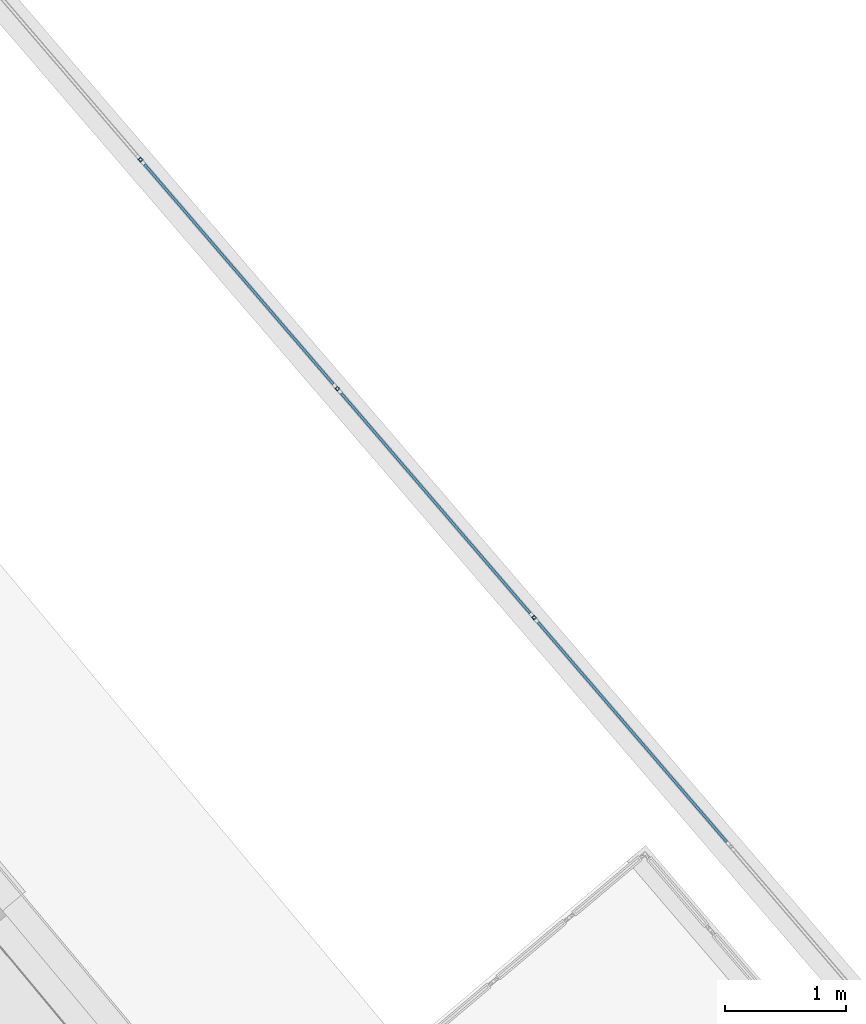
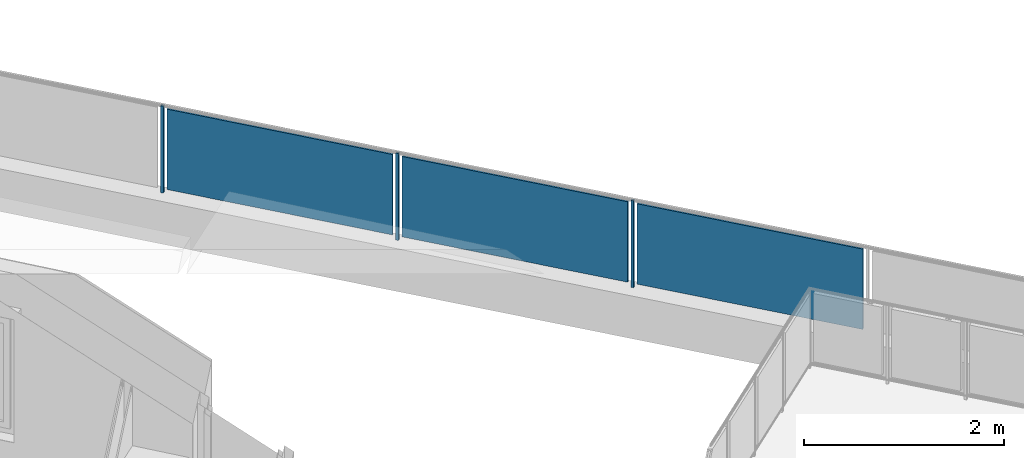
# One storey, part 48 of 67: 6 building element parts, 1 element without a shape of its own.
"""IFC4 building model written with IfcOpenShell, lengths in metres."""

from ifc_helpers import new_model, entity, si_unit, converted_unit, derived_unit, direction, frame, origin_with_axes, place, context, subcontext, project, spatial, polygons, material, type_object, element, aggregate, save


model = new_model("IFC4")

# Units and contexts
model_context = context("Model", 3, precision=1e-05, world=origin_with_axes(), true_north=direction((0.0, 1.0)))
body_context = subcontext(model_context, "Body", "Model", "MODEL_VIEW")
ifc_project = project(units=[si_unit("LENGTHUNIT", "METRE"), si_unit("AREAUNIT", "SQUARE_METRE"), si_unit("VOLUMEUNIT", "CUBIC_METRE"), converted_unit("PLANEANGLEUNIT", "DEGREE", entity("IfcPlaneAngleMeasure", 0.0174532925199), si_unit("PLANEANGLEUNIT", "RADIAN"), dimensions=[0, 0, 0, 0, 0, 0, 0]), converted_unit("TIMEUNIT", "Year", entity("IfcTimeMeasure", 31556926.0), si_unit("TIMEUNIT", "SECOND"), dimensions=[0, 0, 1, 0, 0, 0, 0]), si_unit("MASSUNIT", "GRAM", prefix="KILO"), si_unit("THERMODYNAMICTEMPERATUREUNIT", "DEGREE_CELSIUS"), si_unit("LUMINOUSINTENSITYUNIT", "LUMEN"), si_unit("ENERGYUNIT", "JOULE", prefix="MEGA"), derived_unit("THERMALCONDUCTANCEUNIT", [(si_unit("POWERUNIT", "WATT"), 1), (si_unit("LENGTHUNIT", "METRE"), -1), (si_unit("THERMODYNAMICTEMPERATUREUNIT", "KELVIN"), -1)]), derived_unit("SPECIFICHEATCAPACITYUNIT", [(si_unit("ENERGYUNIT", "JOULE"), 1), (si_unit("MASSUNIT", "GRAM", prefix="KILO"), -1), (si_unit("THERMODYNAMICTEMPERATUREUNIT", "KELVIN"), -1)]), derived_unit("MASSDENSITYUNIT", [(si_unit("MASSUNIT", "GRAM", prefix="KILO"), 1), (si_unit("VOLUMEUNIT", "CUBIC_METRE"), -1)])], contexts=[model_context])

# Site, building, storey
site_placement = place(None, frame((-0.00153261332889, -0.00661245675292, 0.0), z_axis=(0.0, 0.0, 1.0), x_axis=(1.0, 0.0, 0.0)))
site = spatial("IfcSite", under=ifc_project, at=site_placement, Name="Site", CompositionType="ELEMENT")
building_placement = place(site_placement, origin_with_axes())
building = spatial("IfcBuilding", under=site, at=building_placement, Name="Building", CompositionType="ELEMENT")
storey_placement = place(building_placement, frame((0.0, 0.0, -0.22), z_axis=(0.0, 0.0, 1.0), x_axis=(1.0, 0.0, 0.0)))
storey = spatial("IfcBuildingStorey", under=building, at=storey_placement, Name="EG", CompositionType="ELEMENT", Elevation=-0.22)

# Railing, building element parts
railing_type = type_object("IfcRailingType", Name="Geländerart", PredefinedType="NOTDEFINED")
railing_placement = place(storey_placement, frame((-12.1608341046, 23.557810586, 0.523948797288), z_axis=(0.0, 0.0, 1.0), x_axis=(1.0, 0.0, 0.0)))
railing = element("IfcRailing", 1, at=railing_placement, inside=storey, type_object=railing_type, Name="Geländer - 001", PredefinedType="NOTDEFINED")
ifc_material_1 = material(Name="Zaun")
building_element_part_1_placement = place(railing_placement, origin_with_axes())
building_element_part_1 = element("IfcBuildingElementPart", 2, at=building_element_part_1_placement, material=ifc_material_1, Name="Zaun", PredefinedType="NOTDEFINED", context=body_context, shape_type="Tessellation", body=[
    polygons([(27.207719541, 2.05287103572, 0.05), (28.7635417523, 0.242168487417, 0.05), (28.7635417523, 0.242168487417, 1.03), (27.207719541, 2.05287103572, 1.03), (28.7787111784, 0.255202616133, 0.05), (27.2228889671, 2.06590516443, 0.05), (28.7787111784, 0.255202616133, 1.03), (27.2228889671, 2.06590516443, 1.03)], [[[1, 2, 3, 4]], [[5, 2, 1, 6]], [[7, 3, 2, 5]], [[4, 3, 7, 8]], [[1, 4, 8, 6]], [[7, 5, 6, 8]]], closed=True),
])
ifc_material_2 = material(Name="Aluminium")
building_element_part_2_placement = place(railing_placement, origin_with_axes())
building_element_part_2 = element("IfcBuildingElementPart", 3, at=building_element_part_2_placement, material=ifc_material_2, Name="Aluminium", PredefinedType="NOTDEFINED", context=body_context, shape_type="Tessellation", body=[
    polygons([(27.1843204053, 2.11846433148, 0.0), (27.1615662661, 2.09891313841, 0.0), (27.1615662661, 2.09891313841, 1.06), (27.1843204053, 2.11846433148, 1.06), (27.2038715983, 2.09571019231, 0.0), (27.1811174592, 2.07615899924, 0.0), (27.1837865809, 2.11141344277, 0.0), (27.1686171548, 2.09837931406, 0.0), (27.1816512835, 2.08320988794, 0.0), (27.1968207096, 2.09624401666, 0.0), (27.1811174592, 2.07615899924, 1.06), (27.2038715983, 2.09571019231, 1.06), (27.1837865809, 2.11141344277, 1.06), (27.1968207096, 2.09624401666, 1.06), (27.1816512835, 2.08320988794, 1.06), (27.1686171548, 2.09837931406, 1.06)], [[[1, 2, 3, 4]], [[1, 5, 6, 2], [7, 8, 9, 10]], [[2, 6, 11, 3]], [[4, 3, 11, 12], [13, 14, 15, 16]], [[5, 1, 4, 12]], [[6, 5, 12, 11]], [[8, 7, 13, 16]], [[9, 8, 16, 15]], [[10, 9, 15, 14]], [[7, 10, 14, 13]]], closed=True),
])
building_element_part_3_placement = place(railing_placement, origin_with_axes())
building_element_part_3 = element("IfcBuildingElementPart", 4, at=building_element_part_3_placement, material=ifc_material_1, Name="Zaun", PredefinedType="NOTDEFINED", context=body_context, shape_type="Tessellation", body=[
    polygons([(25.586726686, 3.93942071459, 0.05), (27.1425488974, 2.12871816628, 0.05), (27.1425488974, 2.12871816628, 1.03), (25.586726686, 3.93942071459, 1.03), (27.1577183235, 2.141752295, 0.05), (25.6018961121, 3.9524548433, 0.05), (27.1577183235, 2.141752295, 1.03), (25.6018961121, 3.9524548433, 1.03)], [[[1, 2, 3, 4]], [[5, 2, 1, 6]], [[7, 3, 2, 5]], [[4, 3, 7, 8]], [[1, 4, 8, 6]], [[7, 5, 6, 8]]], closed=True),
])
building_element_part_4_placement = place(railing_placement, origin_with_axes())
building_element_part_4 = element("IfcBuildingElementPart", 5, at=building_element_part_4_placement, material=ifc_material_2, Name="Aluminium", PredefinedType="NOTDEFINED", context=body_context, shape_type="Tessellation", body=[
    polygons([(25.5633275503, 4.00501401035, 0.0), (25.5405734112, 3.98546281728, 0.0), (25.5405734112, 3.98546281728, 1.06), (25.5633275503, 4.00501401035, 1.06), (25.5828787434, 3.98225987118, 0.0), (25.5601246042, 3.9627086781, 0.0), (25.562793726, 3.99796312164, 0.0), (25.5476242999, 3.98492899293, 0.0), (25.5606584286, 3.96975956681, 0.0), (25.5758278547, 3.98279369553, 0.0), (25.5601246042, 3.9627086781, 1.06), (25.5828787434, 3.98225987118, 1.06), (25.562793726, 3.99796312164, 1.06), (25.5758278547, 3.98279369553, 1.06), (25.5606584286, 3.96975956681, 1.06), (25.5476242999, 3.98492899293, 1.06)], [[[1, 2, 3, 4]], [[1, 5, 6, 2], [7, 8, 9, 10]], [[2, 6, 11, 3]], [[4, 3, 11, 12], [13, 14, 15, 16]], [[5, 1, 4, 12]], [[6, 5, 12, 11]], [[8, 7, 13, 16]], [[9, 8, 16, 15]], [[10, 9, 15, 14]], [[7, 10, 14, 13]]], closed=True),
])
building_element_part_5_placement = place(railing_placement, origin_with_axes())
building_element_part_5 = element("IfcBuildingElementPart", 6, at=building_element_part_5_placement, material=ifc_material_1, Name="Zaun", PredefinedType="NOTDEFINED", context=body_context, shape_type="Tessellation", body=[
    polygons([(23.9657338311, 5.82597039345, 0.05), (25.5215560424, 4.01526784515, 0.05), (25.5215560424, 4.01526784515, 1.03), (23.9657338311, 5.82597039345, 1.03), (25.5367254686, 4.02830197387, 0.05), (23.9809032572, 5.83900452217, 0.05), (25.5367254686, 4.02830197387, 1.03), (23.9809032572, 5.83900452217, 1.03)], [[[1, 2, 3, 4]], [[5, 2, 1, 6]], [[7, 3, 2, 5]], [[4, 3, 7, 8]], [[1, 4, 8, 6]], [[7, 5, 6, 8]]], closed=True),
])
building_element_part_6_placement = place(railing_placement, origin_with_axes())
building_element_part_6 = element("IfcBuildingElementPart", 7, at=building_element_part_6_placement, material=ifc_material_2, Name="Aluminium", PredefinedType="NOTDEFINED", context=body_context, shape_type="Tessellation", body=[
    polygons([(23.9423346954, 5.89156368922, 0.0), (23.9195805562, 5.87201249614, 0.0), (23.9195805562, 5.87201249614, 1.06), (23.9423346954, 5.89156368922, 1.06), (23.9618858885, 5.86880955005, 0.0), (23.9391317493, 5.84925835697, 0.0), (23.9418008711, 5.88451280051, 0.0), (23.9266314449, 5.87147867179, 0.0), (23.9396655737, 5.85630924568, 0.0), (23.9548349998, 5.8693433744, 0.0), (23.9391317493, 5.84925835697, 1.06), (23.9618858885, 5.86880955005, 1.06), (23.9418008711, 5.88451280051, 1.06), (23.9548349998, 5.8693433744, 1.06), (23.9396655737, 5.85630924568, 1.06), (23.9266314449, 5.87147867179, 1.06)], [[[1, 2, 3, 4]], [[1, 5, 6, 2], [7, 8, 9, 10]], [[2, 6, 11, 3]], [[4, 3, 11, 12], [13, 14, 15, 16]], [[5, 1, 4, 12]], [[6, 5, 12, 11]], [[8, 7, 13, 16]], [[9, 8, 16, 15]], [[10, 9, 15, 14]], [[7, 10, 14, 13]]], closed=True),
])
aggregate(railing, [building_element_part_1, building_element_part_2, building_element_part_3, building_element_part_4, building_element_part_5, building_element_part_6])

save(model, "model.ifc")
